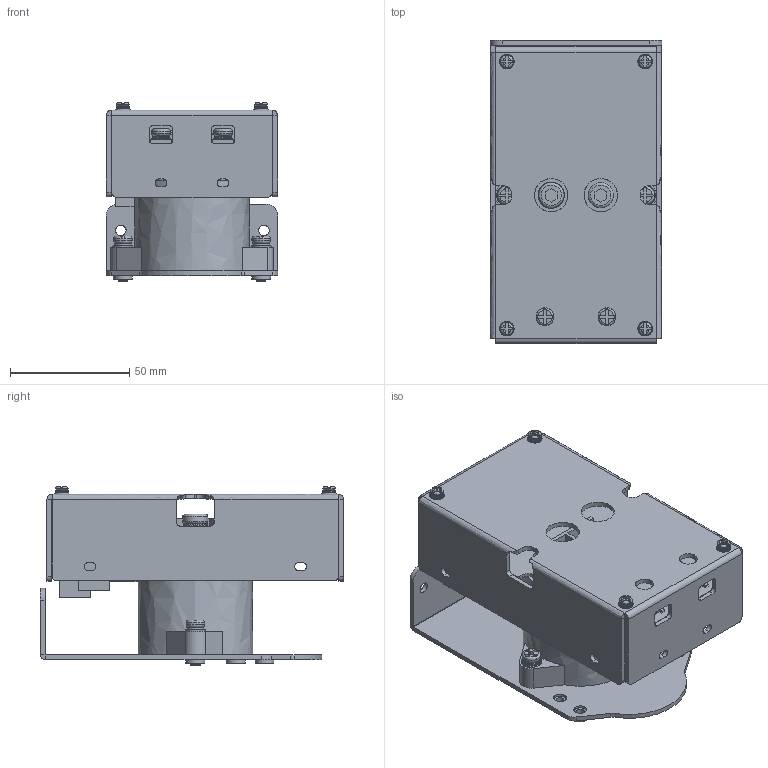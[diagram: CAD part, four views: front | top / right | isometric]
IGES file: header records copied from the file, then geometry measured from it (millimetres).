
Global section: file name: BLVD_2025.02.20; native system: Autodesk Inventor 2021; preprocessor: unknown; author: eunsol jang; date: 20250220.115459; units: inch
Bounding box: 72 x 127.2 x 75.01 mm (x, y, z)
Volume: 190989.7 mm3; surface area: 102903.6 mm2
Topology: 7 solids, 7 shells, 994 faces, 2633 edges, 1772 vertices
Faces by surface type: bspline 994
